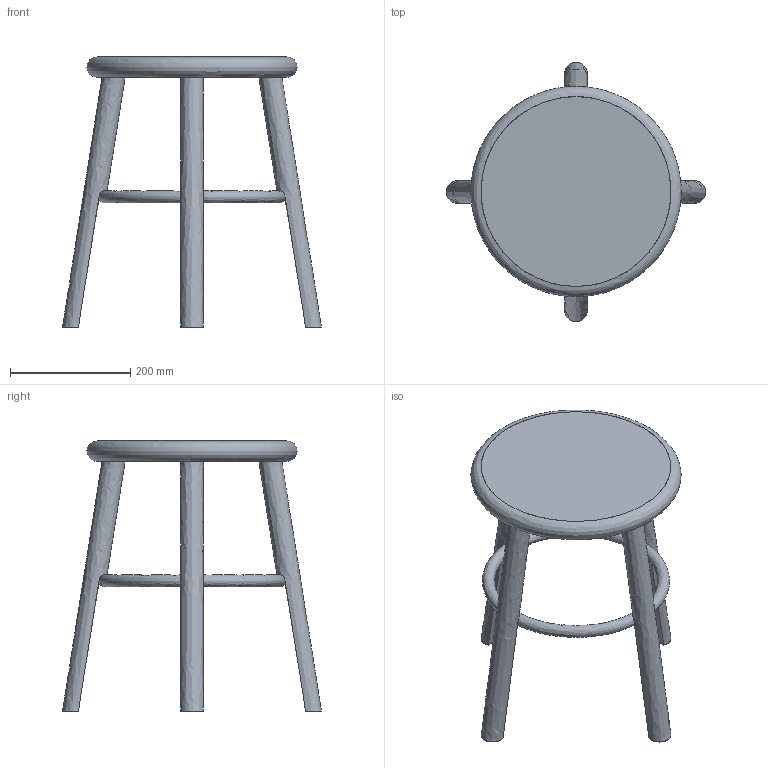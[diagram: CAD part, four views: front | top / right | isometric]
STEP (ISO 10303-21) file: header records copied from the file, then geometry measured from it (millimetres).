
FILE_DESCRIPTION(/* description */ (''),/* implementation_level */ '2;1');
FILE_NAME(/* name */ 'MC05_S~2',/* time_stamp */ '2021-04-10T10:40:11+02:00',/* author */ (''),/* organization */ (''),/* preprocessor_version */ 'ST-DEVELOPER v16.5',/* originating_system */ '',/* authorisation */ '');
FILE_SCHEMA (('AUTOMOTIVE_DESIGN'));
Length unit declared in the file: millimetre
Products named in the file (1): Document
Bounding box: 431.38 x 431.38 x 450.02 mm (x, y, z)
Volume: 291259.4 mm3; surface area: 468169.4 mm2
Topology: 1 solids, 16 shells, 16 faces, 47 edges, 41 vertices
Faces by surface type: bspline 16
Entity records: 3785 total; most frequent: CARTESIAN_POINT 3271, B_SPLINE_CURVE_WITH_KNOTS 88, ORIENTED_EDGE 54, PCURVE 54, DEFINITIONAL_REPRESENTATION 54, SURFACE_CURVE 47, EDGE_CURVE 47, VERTEX_POINT 41
